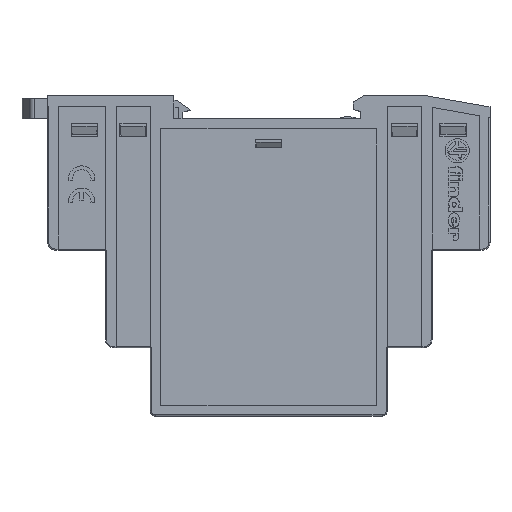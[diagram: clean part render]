
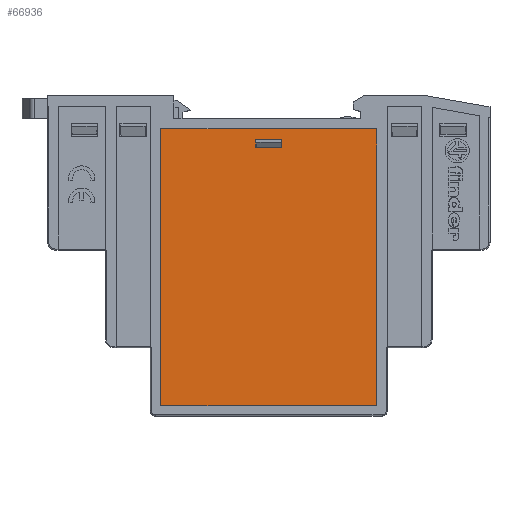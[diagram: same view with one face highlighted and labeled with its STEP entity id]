
A CAD part, top view. The second image highlights one B-rep face of the part: STEP entity #66936.
In plain terms, the highlighted planar face has unit normal (0, 0, 1).
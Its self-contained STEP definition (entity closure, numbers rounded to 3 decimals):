
#6379=ORIENTED_EDGE('',*,*,#23748,.T.);
#6380=ORIENTED_EDGE('',*,*,#23746,.F.);
#6381=ORIENTED_EDGE('',*,*,#23744,.F.);
#6382=ORIENTED_EDGE('',*,*,#23743,.F.);
#6383=ORIENTED_EDGE('',*,*,#24688,.T.);
#6384=ORIENTED_EDGE('',*,*,#24689,.T.);
#6385=ORIENTED_EDGE('',*,*,#24690,.F.);
#6386=ORIENTED_EDGE('',*,*,#24691,.F.);
#6387=ORIENTED_EDGE('',*,*,#24692,.F.);
#6388=ORIENTED_EDGE('',*,*,#24693,.F.);
#23743=EDGE_CURVE('',#33311,#33310,#39843,.T.);
#23744=EDGE_CURVE('',#33310,#33312,#39844,.T.);
#23746=EDGE_CURVE('',#33312,#33313,#39846,.T.);
#23748=EDGE_CURVE('',#33311,#33313,#39848,.T.);
#24688=EDGE_CURVE('',#33979,#33980,#40614,.T.);
#24689=EDGE_CURVE('',#33980,#33981,#40615,.T.);
#24690=EDGE_CURVE('',#33982,#33981,#40616,.T.);
#24691=EDGE_CURVE('',#33983,#33982,#40617,.T.);
#24692=EDGE_CURVE('',#33984,#33983,#40618,.T.);
#24693=EDGE_CURVE('',#33979,#33984,#40619,.T.);
#33310=VERTEX_POINT('',#119200);
#33311=VERTEX_POINT('',#119202);
#33312=VERTEX_POINT('',#119206);
#33313=VERTEX_POINT('',#119210);
#33979=VERTEX_POINT('',#121868);
#33980=VERTEX_POINT('',#121869);
#33981=VERTEX_POINT('',#121871);
#33982=VERTEX_POINT('',#121873);
#33983=VERTEX_POINT('',#121875);
#33984=VERTEX_POINT('',#121877);
#39843=LINE('',#119203,#48051);
#39844=LINE('',#119205,#48052);
#39846=LINE('',#119209,#48054);
#39848=LINE('',#119213,#48056);
#40614=LINE('',#121867,#48822);
#40615=LINE('',#121870,#48823);
#40616=LINE('',#121872,#48824);
#40617=LINE('',#121874,#48825);
#40618=LINE('',#121876,#48826);
#40619=LINE('',#121878,#48827);
#48051=VECTOR('',#101053,1000.);
#48052=VECTOR('',#101056,1000.);
#48054=VECTOR('',#101060,1000.);
#48056=VECTOR('',#101064,1000.);
#48822=VECTOR('',#102664,1000.);
#48823=VECTOR('',#102665,1000.);
#48824=VECTOR('',#102666,1000.);
#48825=VECTOR('',#102667,1000.);
#48826=VECTOR('',#102668,1000.);
#48827=VECTOR('',#102669,1000.);
#56237=EDGE_LOOP('',(#6379,#6380,#6381,#6382));
#56238=EDGE_LOOP('',(#6383,#6384,#6385,#6386,#6387,#6388));
#60169=FACE_BOUND('',#56237,.T.);
#60170=FACE_BOUND('',#56238,.T.);
#63845=PLANE('',#95308);
#66936=ADVANCED_FACE('',(#60169,#60170),#63845,.T.);
#95308=AXIS2_PLACEMENT_3D('',#121866,#102662,#102663);
#101053=DIRECTION('',(-1.,0.,0.));
#101056=DIRECTION('',(0.,-1.,0.));
#101060=DIRECTION('',(1.,0.,0.));
#101064=DIRECTION('',(0.,-1.,0.));
#102662=DIRECTION('',(0.,0.,1.));
#102663=DIRECTION('',(-1.,0.,0.));
#102664=DIRECTION('',(-1.,0.,0.));
#102665=DIRECTION('',(0.,-1.,0.));
#102666=DIRECTION('',(0.,1.,0.));
#102667=DIRECTION('',(-1.,0.,0.));
#102668=DIRECTION('',(0.,-1.,0.));
#102669=DIRECTION('',(0.,-1.,0.));
#119200=CARTESIAN_POINT('',(-17.5,47.5,3.5));
#119202=CARTESIAN_POINT('',(-12.5,47.5,3.5));
#119203=CARTESIAN_POINT('',(-12.5,47.5,3.5));
#119205=CARTESIAN_POINT('',(-17.5,47.5,3.5));
#119206=CARTESIAN_POINT('',(-17.5,46.,3.5));
#119209=CARTESIAN_POINT('',(-17.5,46.,3.5));
#119210=CARTESIAN_POINT('',(-12.5,46.,3.5));
#119213=CARTESIAN_POINT('',(-12.5,47.5,3.5));
#121866=CARTESIAN_POINT('',(27.,55.8,3.5));
#121867=CARTESIAN_POINT('',(5.5,49.5,3.5));
#121868=CARTESIAN_POINT('',(5.5,49.5,3.5));
#121869=CARTESIAN_POINT('',(-35.5,49.5,3.5));
#121870=CARTESIAN_POINT('',(-35.5,49.5,3.5));
#121871=CARTESIAN_POINT('',(-35.5,-0.5,3.5));
#121872=CARTESIAN_POINT('',(-35.5,-3.,3.5));
#121873=CARTESIAN_POINT('',(-35.5,-3.,3.5));
#121874=CARTESIAN_POINT('',(5.5,-3.,3.5));
#121875=CARTESIAN_POINT('',(5.5,-3.,3.5));
#121876=CARTESIAN_POINT('',(5.5,-0.5,3.5));
#121877=CARTESIAN_POINT('',(5.5,-0.5,3.5));
#121878=CARTESIAN_POINT('',(5.5,49.5,3.5));
